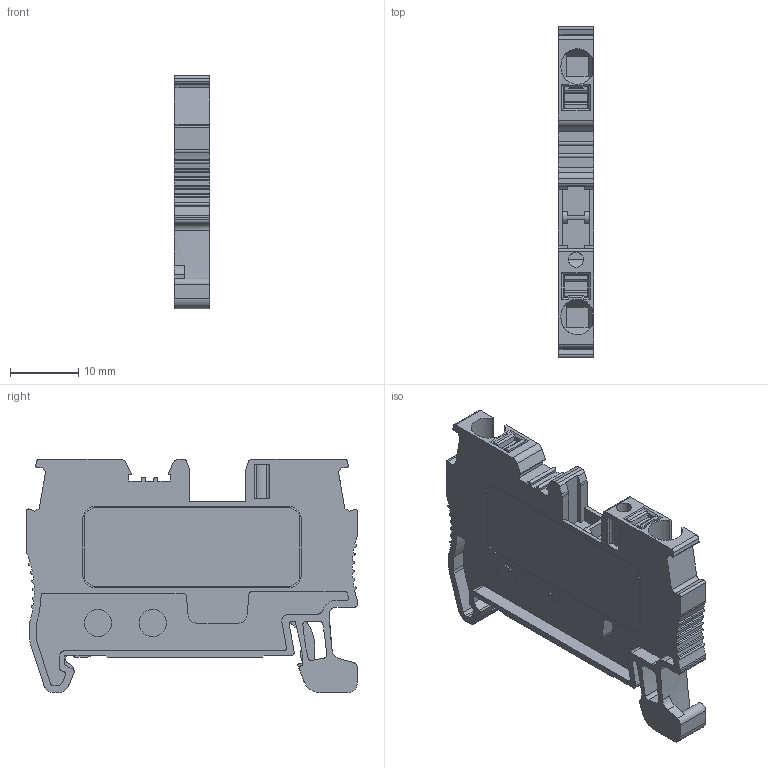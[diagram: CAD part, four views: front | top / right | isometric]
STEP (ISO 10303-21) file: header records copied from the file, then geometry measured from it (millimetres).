
FILE_DESCRIPTION(('Open CASCADE Model'),'2;1');
FILE_NAME('Open CASCADE Shape Model','2023-04-14T12:33:30',('Author'),( 'Open CASCADE'),'Open CASCADE STEP processor 6.5','Open CASCADE 6.5' ,'Unknown');
FILE_SCHEMA(('AUTOMOTIVE_DESIGN { 1 0 10303 214 1 1 1 1 }'));
Length unit declared in the file: millimetre
Products named in the file (1221): CADSOFTTOOLS 1; CADSOFTTOOLS 1.1; CADSOFTTOOLS 1.2; CADSOFTTOOLS 1.3; CADSOFTTOOLS 1.4; CADSOFTTOOLS 1.5; CADSOFTTOOLS 1.6; CADSOFTTOOLS 1.7; CADSOFTTOOLS 1.8; CADSOFTTOOLS 1.9; CADSOFTTOOLS 1.10; CADSOFTTOOLS 1.11; CADSOFTTOOLS 1.12; CADSOFTTOOLS 1.13; CADSOFTTOOLS 1.14; CADSOFTTOOLS 1.15; CADSOFTTOOLS 1.16; CADSOFTTOOLS 1.17; CADSOFTTOOLS 1.18; CADSOFTTOOLS 1.19; CADSOFTTOOLS 1.20; CADSOFTTOOLS 1.21; CADSOFTTOOLS 1.22; CADSOFTTOOLS 1.23; CADSOFTTOOLS 1.24; CADSOFTTOOLS 1.25; CADSOFTTOOLS 1.26; CADSOFTTOOLS 1.27; CADSOFTTOOLS 1.28; CADSOFTTOOLS 1.29; CADSOFTTOOLS 1.30; CADSOFTTOOLS 1.31; CADSOFTTOOLS 1.32; CADSOFTTOOLS 1.33; CADSOFTTOOLS 1.34; CADSOFTTOOLS 1.35; CADSOFTTOOLS 1.36; CADSOFTTOOLS 1.37; CADSOFTTOOLS 1.38; CADSOFTTOOLS 1.39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
Assembly tree (1220 placements, depth 2):
  CADSOFTTOOLS 1
    CADSOFTTOOLS 1.1
    CADSOFTTOOLS 1.2
    CADSOFTTOOLS 1.3
    CADSOFTTOOLS 1.4
    CADSOFTTOOLS 1.5
    CADSOFTTOOLS 1.6
    CADSOFTTOOLS 1.7
    CADSOFTTOOLS 1.8
    CADSOFTTOOLS 1.9
    CADSOFTTOOLS 1.10
    CADSOFTTOOLS 1.11
    CADSOFTTOOLS 1.12
    CADSOFTTOOLS 1.13
    CADSOFTTOOLS 1.14
    CADSOFTTOOLS 1.15
    CADSOFTTOOLS 1.16
    CADSOFTTOOLS 1.17
    CADSOFTTOOLS 1.18
    CADSOFTTOOLS 1.19
    CADSOFTTOOLS 1.20
    CADSOFTTOOLS 1.21
    CADSOFTTOOLS 1.22
    CADSOFTTOOLS 1.23
    CADSOFTTOOLS 1.24
    CADSOFTTOOLS 1.25
    CADSOFTTOOLS 1.26
    CADSOFTTOOLS 1.27
    CADSOFTTOOLS 1.28
    CADSOFTTOOLS 1.29
    CADSOFTTOOLS 1.30
    CADSOFTTOOLS 1.31
    CADSOFTTOOLS 1.32
    CADSOFTTOOLS 1.33
    CADSOFTTOOLS 1.34
    CADSOFTTOOLS 1.35
    CADSOFTTOOLS 1.36
    CADSOFTTOOLS 1.37
    CADSOFTTOOLS 1.38
    CADSOFTTOOLS 1.39
    CADSOFTTOOLS 1.40
    CADSOFTTOOLS 1.41
    CADSOFTTOOLS 1.42
    CADSOFTTOOLS 1.43
    CADSOFTTOOLS 1.44
    CADSOFTTOOLS 1.45
    CADSOFTTOOLS 1.46
    CADSOFTTOOLS 1.47
    CADSOFTTOOLS 1.48
    CADSOFTTOOLS 1.49
    CADSOFTTOOLS 1.50
    CADSOFTTOOLS 1.51
    CADSOFTTOOLS 1.52
    CADSOFTTOOLS 1.53
    CADSOFTTOOLS 1.54
    CADSOFTTOOLS 1.55
    CADSOFTTOOLS 1.56
    CADSOFTTOOLS 1.57
    CADSOFTTOOLS 1.58
    CADSOFTTOOLS 1.59
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Bounding box: 5.2 x 48.5 x 34.2 mm (x, y, z)
Surface area: 4589.6 mm2 (no closed solid volume)
Topology: 0 solids, 1220 shells, 1220 faces, 7109 edges, 7102 vertices
Faces by surface type: plane 1018, cylinder 201, cone 1
Full cylindrical faces by diameter (mm): 1 x1, 2.2 x1, 2.4 x1, 2.6 x1, 4 x2
Entity records: 146651 total; most frequent: CARTESIAN_POINT 31082, DIRECTION 18830, LINE 11988, VECTOR 11988, ORIENTED_EDGE 7116, PCURVE 7116, DEFINITIONAL_REPRESENTATION 7116, EDGE_CURVE 7109
